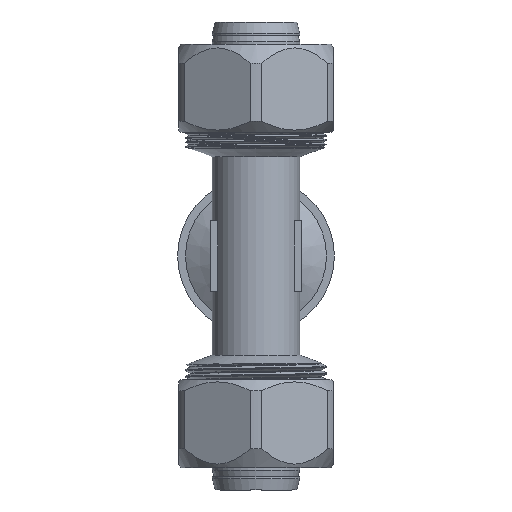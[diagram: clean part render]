
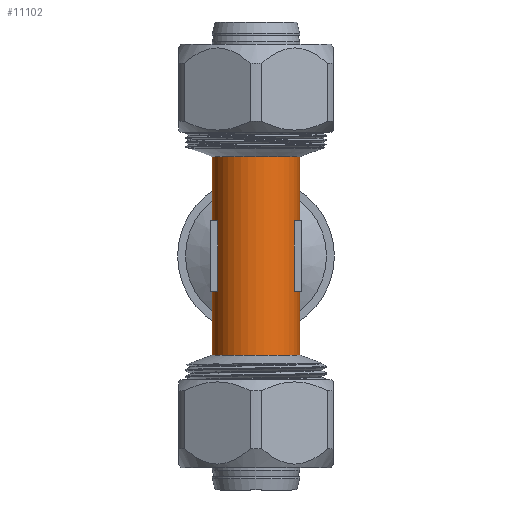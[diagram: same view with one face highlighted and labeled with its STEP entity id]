
A CAD part, front view. The second image highlights one B-rep face of the part: STEP entity #11102.
In plain terms, the highlighted cylindrical face has radius 9.9 mm (diameter 19.8 mm), a full revolution.
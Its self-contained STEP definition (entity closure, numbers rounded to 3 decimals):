
#1317=CIRCLE('',#11761,9.9);
#1318=CIRCLE('',#11763,9.9);
#1319=CIRCLE('',#11767,9.9);
#1320=CIRCLE('',#11769,9.9);
#1323=CIRCLE('',#11775,9.9);
#1324=CIRCLE('',#11777,9.9);
#1349=CIRCLE('',#11829,9.9);
#1374=CIRCLE('',#11865,9.9);
#1375=CIRCLE('',#11866,9.9);
#1482=CYLINDRICAL_SURFACE('',#11867,9.9);
#1951=FACE_OUTER_BOUND('',#2611,.T.);
#2611=EDGE_LOOP('',(#9376,#9377,#9378,#9379,#9380,#9381,#9382,#9383,#9384,
#9385,#9386,#9387,#9388,#9389,#9390,#9391,#9392,#9393,#9394,#9395,#9396,
#9397,#9398));
#2853=ELLIPSE('',#11799,14.001,9.9);
#2854=ELLIPSE('',#11800,14.001,9.9);
#2855=ELLIPSE('',#11801,14.001,9.9);
#2856=ELLIPSE('',#11804,14.001,9.9);
#3281=LINE('',#21139,#3966);
#3285=LINE('',#21148,#3970);
#3293=LINE('',#21168,#3978);
#3296=LINE('',#21174,#3981);
#3303=LINE('',#21192,#3988);
#3306=LINE('',#21200,#3991);
#3336=LINE('',#21390,#4021);
#3337=LINE('',#21391,#4022);
#3966=VECTOR('',#13191,10.);
#3970=VECTOR('',#13197,10.);
#3978=VECTOR('',#13215,10.);
#3981=VECTOR('',#13220,10.);
#3988=VECTOR('',#13237,10.);
#3991=VECTOR('',#13244,10.);
#4021=VECTOR('',#13464,9.9);
#4022=VECTOR('',#13465,9.9);
#4939=VERTEX_POINT('',#21137);
#4940=VERTEX_POINT('',#21138);
#4943=VERTEX_POINT('',#21146);
#4944=VERTEX_POINT('',#21147);
#4947=VERTEX_POINT('',#21155);
#4949=VERTEX_POINT('',#21161);
#4951=VERTEX_POINT('',#21167);
#4953=VERTEX_POINT('',#21173);
#4955=VERTEX_POINT('',#21179);
#4957=VERTEX_POINT('',#21185);
#4959=VERTEX_POINT('',#21191);
#4962=VERTEX_POINT('',#21199);
#4965=VERTEX_POINT('',#21207);
#4968=VERTEX_POINT('',#21215);
#4985=VERTEX_POINT('',#21268);
#4986=VERTEX_POINT('',#21271);
#5003=VERTEX_POINT('',#21322);
#5026=VERTEX_POINT('',#21385);
#5027=VERTEX_POINT('',#21386);
#6424=EDGE_CURVE('',#4939,#4940,#3281,.T.);
#6428=EDGE_CURVE('',#4943,#4944,#3285,.T.);
#6432=EDGE_CURVE('',#4947,#4943,#1317,.T.);
#6435=EDGE_CURVE('',#4940,#4949,#1318,.T.);
#6438=EDGE_CURVE('',#4951,#4947,#3293,.T.);
#6441=EDGE_CURVE('',#4949,#4953,#3296,.T.);
#6444=EDGE_CURVE('',#4955,#4951,#1319,.T.);
#6447=EDGE_CURVE('',#4953,#4957,#1320,.T.);
#6450=EDGE_CURVE('',#4959,#4955,#3303,.T.);
#6454=EDGE_CURVE('',#4957,#4962,#3306,.T.);
#6458=EDGE_CURVE('',#4965,#4939,#1323,.T.);
#6462=EDGE_CURVE('',#4944,#4968,#1324,.T.);
#6489=EDGE_CURVE('',#4985,#4959,#2853,.T.);
#6490=EDGE_CURVE('',#4962,#4985,#2854,.T.);
#6491=EDGE_CURVE('',#4986,#4965,#2855,.T.);
#6495=EDGE_CURVE('',#4968,#4986,#2856,.T.);
#6515=EDGE_CURVE('',#5003,#5003,#1349,.T.);
#6544=EDGE_CURVE('',#5026,#5027,#1374,.T.);
#6545=EDGE_CURVE('',#5027,#5026,#1375,.T.);
#6546=EDGE_CURVE('',#5003,#4986,#3336,.T.);
#6547=EDGE_CURVE('',#4985,#5027,#3337,.T.);
#9376=ORIENTED_EDGE('',*,*,#6515,.F.);
#9377=ORIENTED_EDGE('',*,*,#6546,.T.);
#9378=ORIENTED_EDGE('',*,*,#6491,.T.);
#9379=ORIENTED_EDGE('',*,*,#6458,.T.);
#9380=ORIENTED_EDGE('',*,*,#6424,.T.);
#9381=ORIENTED_EDGE('',*,*,#6435,.T.);
#9382=ORIENTED_EDGE('',*,*,#6441,.T.);
#9383=ORIENTED_EDGE('',*,*,#6447,.T.);
#9384=ORIENTED_EDGE('',*,*,#6454,.T.);
#9385=ORIENTED_EDGE('',*,*,#6490,.T.);
#9386=ORIENTED_EDGE('',*,*,#6547,.T.);
#9387=ORIENTED_EDGE('',*,*,#6545,.T.);
#9388=ORIENTED_EDGE('',*,*,#6544,.T.);
#9389=ORIENTED_EDGE('',*,*,#6547,.F.);
#9390=ORIENTED_EDGE('',*,*,#6489,.T.);
#9391=ORIENTED_EDGE('',*,*,#6450,.T.);
#9392=ORIENTED_EDGE('',*,*,#6444,.T.);
#9393=ORIENTED_EDGE('',*,*,#6438,.T.);
#9394=ORIENTED_EDGE('',*,*,#6432,.T.);
#9395=ORIENTED_EDGE('',*,*,#6428,.T.);
#9396=ORIENTED_EDGE('',*,*,#6462,.T.);
#9397=ORIENTED_EDGE('',*,*,#6495,.T.);
#9398=ORIENTED_EDGE('',*,*,#6546,.F.);
#11102=ADVANCED_FACE('',(#1951),#1482,.T.);
#11761=AXIS2_PLACEMENT_3D('',#21156,#13203,#13204);
#11763=AXIS2_PLACEMENT_3D('',#21162,#13209,#13210);
#11767=AXIS2_PLACEMENT_3D('',#21180,#13225,#13226);
#11769=AXIS2_PLACEMENT_3D('',#21186,#13231,#13232);
#11775=AXIS2_PLACEMENT_3D('',#21208,#13251,#13252);
#11777=AXIS2_PLACEMENT_3D('',#21216,#13258,#13259);
#11799=AXIS2_PLACEMENT_3D('',#21269,#13316,#13317);
#11800=AXIS2_PLACEMENT_3D('',#21270,#13318,#13319);
#11801=AXIS2_PLACEMENT_3D('',#21272,#13320,#13321);
#11804=AXIS2_PLACEMENT_3D('',#21278,#13327,#13328);
#11829=AXIS2_PLACEMENT_3D('',#21323,#13382,#13383);
#11865=AXIS2_PLACEMENT_3D('',#21387,#13458,#13459);
#11866=AXIS2_PLACEMENT_3D('',#21388,#13460,#13461);
#11867=AXIS2_PLACEMENT_3D('',#21389,#13462,#13463);
#13191=DIRECTION('',(0.,0.,-1.));
#13197=DIRECTION('',(0.,0.,1.));
#13203=DIRECTION('center_axis',(0.,0.,-1.));
#13204=DIRECTION('ref_axis',(0.,-1.,0.));
#13209=DIRECTION('center_axis',(0.,0.,-1.));
#13210=DIRECTION('ref_axis',(0.,-1.,0.));
#13215=DIRECTION('',(0.,0.,-1.));
#13220=DIRECTION('',(0.,0.,1.));
#13225=DIRECTION('center_axis',(0.,0.,1.));
#13226=DIRECTION('ref_axis',(0.,-1.,0.));
#13231=DIRECTION('center_axis',(0.,0.,1.));
#13232=DIRECTION('ref_axis',(0.,-1.,0.));
#13237=DIRECTION('',(0.,0.,1.));
#13244=DIRECTION('',(0.,0.,-1.));
#13251=DIRECTION('center_axis',(0.,0.,-1.));
#13252=DIRECTION('ref_axis',(0.,-1.,0.));
#13258=DIRECTION('center_axis',(0.,0.,-1.));
#13259=DIRECTION('ref_axis',(0.,-1.,0.));
#13316=DIRECTION('center_axis',(0.,-0.707,0.707));
#13317=DIRECTION('ref_axis',(0.,0.707,0.707));
#13318=DIRECTION('center_axis',(0.,-0.707,0.707));
#13319=DIRECTION('ref_axis',(0.,0.707,0.707));
#13320=DIRECTION('center_axis',(0.,-0.707,-0.707));
#13321=DIRECTION('ref_axis',(0.,-0.707,0.707));
#13327=DIRECTION('center_axis',(0.,-0.707,-0.707));
#13328=DIRECTION('ref_axis',(0.,-0.707,0.707));
#13382=DIRECTION('center_axis',(0.,0.,-1.));
#13383=DIRECTION('ref_axis',(1.,0.,0.));
#13458=DIRECTION('center_axis',(0.,0.,-1.));
#13459=DIRECTION('ref_axis',(1.,0.,0.));
#13460=DIRECTION('center_axis',(0.,0.,-1.));
#13461=DIRECTION('ref_axis',(1.,0.,0.));
#13462=DIRECTION('center_axis',(0.,0.,-1.));
#13463=DIRECTION('ref_axis',(0.,-1.,0.));
#13464=DIRECTION('',(0.,0.,1.));
#13465=DIRECTION('',(0.,0.,1.));
#21137=CARTESIAN_POINT('',(8.693,4.736,-4.772));
#21138=CARTESIAN_POINT('',(8.693,4.736,-8.022));
#21139=CARTESIAN_POINT('',(8.693,4.736,11.25));
#21146=CARTESIAN_POINT('',(-8.693,4.736,-8.022));
#21147=CARTESIAN_POINT('',(-8.693,4.736,-4.772));
#21148=CARTESIAN_POINT('',(-8.693,4.736,11.25));
#21155=CARTESIAN_POINT('',(-8.679,-4.764,-8.022));
#21156=CARTESIAN_POINT('Origin',(0.,0.,-8.022));
#21161=CARTESIAN_POINT('',(8.679,-4.764,-8.022));
#21162=CARTESIAN_POINT('Origin',(0.,0.,-8.022));
#21167=CARTESIAN_POINT('',(-8.679,-4.764,7.978));
#21168=CARTESIAN_POINT('',(-8.679,-4.764,11.25));
#21173=CARTESIAN_POINT('',(8.679,-4.764,7.978));
#21174=CARTESIAN_POINT('',(8.679,-4.764,11.25));
#21179=CARTESIAN_POINT('',(-8.693,4.736,7.978));
#21180=CARTESIAN_POINT('Origin',(0.,0.,7.978));
#21185=CARTESIAN_POINT('',(8.693,4.736,7.978));
#21186=CARTESIAN_POINT('Origin',(0.,0.,7.978));
#21191=CARTESIAN_POINT('',(-8.693,4.736,4.736));
#21192=CARTESIAN_POINT('',(-8.693,4.736,11.25));
#21199=CARTESIAN_POINT('',(8.693,4.736,4.736));
#21200=CARTESIAN_POINT('',(8.693,4.736,11.25));
#21207=CARTESIAN_POINT('',(8.674,4.772,-4.772));
#21208=CARTESIAN_POINT('Origin',(0.,0.,-4.772));
#21215=CARTESIAN_POINT('',(-8.674,4.772,-4.772));
#21216=CARTESIAN_POINT('Origin',(0.,0.,-4.772));
#21268=CARTESIAN_POINT('',(0.,9.9,9.9));
#21269=CARTESIAN_POINT('Origin',(0.,0.,0.));
#21270=CARTESIAN_POINT('Origin',(0.,0.,0.));
#21271=CARTESIAN_POINT('',(0.,9.9,-9.9));
#21272=CARTESIAN_POINT('Origin',(0.,0.,0.));
#21278=CARTESIAN_POINT('Origin',(0.,0.,0.));
#21322=CARTESIAN_POINT('',(0.,9.9,-22.5));
#21323=CARTESIAN_POINT('Origin',(0.,0.,-22.5));
#21385=CARTESIAN_POINT('',(0.,-9.9,22.5));
#21386=CARTESIAN_POINT('',(0.,9.9,22.5));
#21387=CARTESIAN_POINT('Origin',(0.,0.,22.5));
#21388=CARTESIAN_POINT('Origin',(0.,0.,22.5));
#21389=CARTESIAN_POINT('Origin',(0.,0.,11.25));
#21390=CARTESIAN_POINT('',(0.,9.9,11.25));
#21391=CARTESIAN_POINT('',(0.,9.9,11.25));
